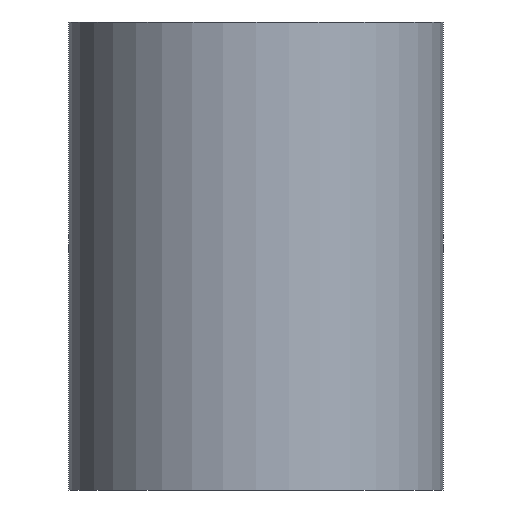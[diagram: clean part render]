
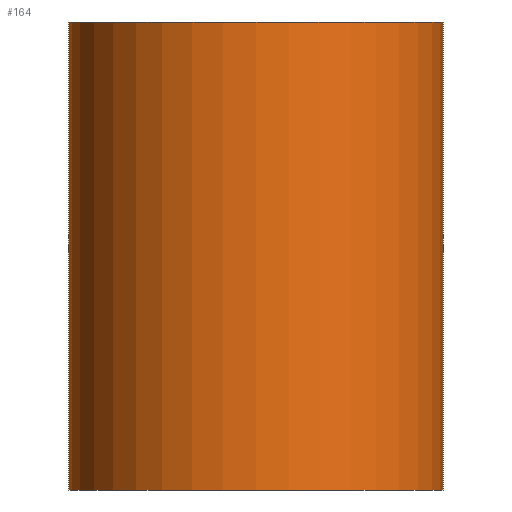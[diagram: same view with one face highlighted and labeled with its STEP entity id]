
A CAD part, front view. The second image highlights one B-rep face of the part: STEP entity #164.
In plain terms, the highlighted cylindrical face has radius 4 mm (diameter 8 mm), a partial arc.
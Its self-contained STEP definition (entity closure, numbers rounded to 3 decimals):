
#2 = AXIS2_PLACEMENT_3D ( 'NONE', #199, #139, #179 ) ;
#3 = ORIENTED_EDGE ( 'NONE', *, *, #54, .F. ) ;
#4 = FACE_OUTER_BOUND ( 'NONE', #19, .T. ) ;
#7 = DIRECTION ( 'NONE',  ( 0., 0., 1. ) ) ;
#8 = CARTESIAN_POINT ( 'NONE',  ( 4., 0., 10. ) ) ;
#19 = EDGE_LOOP ( 'NONE', ( #57, #3, #167, #42 ) ) ;
#20 = VERTEX_POINT ( 'NONE', #56 ) ;
#36 = VECTOR ( 'NONE', #238, 1000. ) ;
#42 = ORIENTED_EDGE ( 'NONE', *, *, #219, .T. ) ;
#45 = DIRECTION ( 'NONE',  ( 0., 0., -1. ) ) ;
#46 = EDGE_CURVE ( 'NONE', #132, #91, #151, .T. ) ;
#48 = CARTESIAN_POINT ( 'NONE',  ( 0., 0., 0. ) ) ;
#54 = EDGE_CURVE ( 'NONE', #129, #132, #87, .T. ) ;
#56 = CARTESIAN_POINT ( 'NONE',  ( -4., 0., 0. ) ) ;
#57 = ORIENTED_EDGE ( 'NONE', *, *, #46, .F. ) ;
#59 = CARTESIAN_POINT ( 'NONE',  ( 0., 0., 10. ) ) ;
#63 = LINE ( 'NONE', #140, #65 ) ;
#65 = VECTOR ( 'NONE', #217, 1000. ) ;
#69 = AXIS2_PLACEMENT_3D ( 'NONE', #59, #45, #99 ) ;
#81 = CARTESIAN_POINT ( 'NONE',  ( -4., 0., 10. ) ) ;
#87 = CIRCLE ( 'NONE', #2, 4. ) ;
#91 = VERTEX_POINT ( 'NONE', #155 ) ;
#99 = DIRECTION ( 'NONE',  ( -1., 0., 0. ) ) ;
#100 = DIRECTION ( 'NONE',  ( 1., 0., 0. ) ) ;
#129 = VERTEX_POINT ( 'NONE', #81 ) ;
#132 = VERTEX_POINT ( 'NONE', #174 ) ;
#139 = DIRECTION ( 'NONE',  ( 0., 0., 1. ) ) ;
#140 = CARTESIAN_POINT ( 'NONE',  ( -4., 0., 10. ) ) ;
#146 = EDGE_CURVE ( 'NONE', #129, #20, #63, .T. ) ;
#151 = LINE ( 'NONE', #8, #36 ) ;
#152 = CIRCLE ( 'NONE', #208, 4. ) ;
#155 = CARTESIAN_POINT ( 'NONE',  ( 4., 0., 0. ) ) ;
#164 = ADVANCED_FACE ( 'NONE', ( #4 ), #216, .T. ) ;
#167 = ORIENTED_EDGE ( 'NONE', *, *, #146, .T. ) ;
#174 = CARTESIAN_POINT ( 'NONE',  ( 4., 0., 10. ) ) ;
#179 = DIRECTION ( 'NONE',  ( 1., 0., 0. ) ) ;
#199 = CARTESIAN_POINT ( 'NONE',  ( 0., 0., 10. ) ) ;
#208 = AXIS2_PLACEMENT_3D ( 'NONE', #48, #7, #100 ) ;
#216 = CYLINDRICAL_SURFACE ( 'NONE', #69, 4. ) ;
#217 = DIRECTION ( 'NONE',  ( 0., 0., -1. ) ) ;
#219 = EDGE_CURVE ( 'NONE', #20, #91, #152, .T. ) ;
#238 = DIRECTION ( 'NONE',  ( 0., 0., -1. ) ) ;
